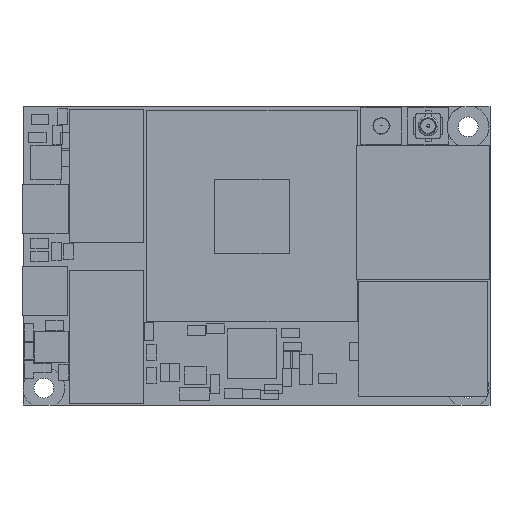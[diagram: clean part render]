
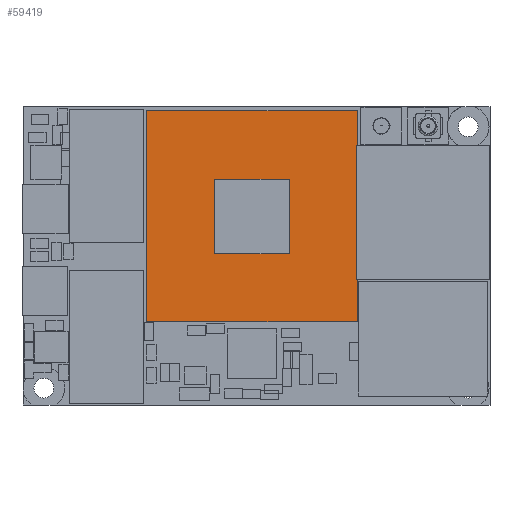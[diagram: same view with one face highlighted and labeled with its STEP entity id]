
A CAD part, top view. The second image highlights one B-rep face of the part: STEP entity #59419.
In plain terms, the highlighted planar face has unit normal (0, 0, 1).
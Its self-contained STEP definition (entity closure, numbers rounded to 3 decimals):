
#1522 = VERTEX_POINT ( 'NONE', #7613 ) ;
#3487 = ORIENTED_EDGE ( 'NONE', *, *, #93466, .T. ) ;
#4303 = LINE ( 'NONE', #97626, #5634 ) ;
#4800 = EDGE_CURVE ( 'NONE', #34479, #9100, #40131, .T. ) ;
#5369 = AXIS2_PLACEMENT_3D ( 'NONE', #66085, #8243, #57940 ) ;
#5634 = VECTOR ( 'NONE', #105072, 1000. ) ;
#5991 = VERTEX_POINT ( 'NONE', #70185 ) ;
#7613 = CARTESIAN_POINT ( 'NONE',  ( 12.431, 29.591, 2.775 ) ) ;
#8243 = DIRECTION ( 'NONE',  ( 0., 0., 1. ) ) ;
#9100 = VERTEX_POINT ( 'NONE', #61335 ) ;
#9381 = EDGE_CURVE ( 'NONE', #5991, #34479, #33345, .T. ) ;
#13185 = VERTEX_POINT ( 'NONE', #40643 ) ;
#13711 = ORIENTED_EDGE ( 'NONE', *, *, #9381, .F. ) ;
#13863 = CARTESIAN_POINT ( 'NONE',  ( 12.431, 29.591, 2.775 ) ) ;
#16133 = DIRECTION ( 'NONE',  ( 1., 0., 0. ) ) ;
#17739 = DIRECTION ( 'NONE',  ( 0., -1., 0. ) ) ;
#18897 = LINE ( 'NONE', #51128, #102654 ) ;
#22242 = CARTESIAN_POINT ( 'NONE',  ( 26.79, 15.232, 2.775 ) ) ;
#24119 = EDGE_CURVE ( 'NONE', #53236, #13185, #38110, .T. ) ;
#25087 = DIRECTION ( 'NONE',  ( -1., 0., 0. ) ) ;
#27010 = ORIENTED_EDGE ( 'NONE', *, *, #4800, .F. ) ;
#32045 = LINE ( 'NONE', #81067, #58718 ) ;
#32687 = FACE_OUTER_BOUND ( 'NONE', #39742, .T. ) ;
#33345 = LINE ( 'NONE', #82470, #39653 ) ;
#33831 = PLANE ( 'NONE',  #5369 ) ;
#34479 = VERTEX_POINT ( 'NONE', #22242 ) ;
#38110 = LINE ( 'NONE', #92507, #43200 ) ;
#39653 = VECTOR ( 'NONE', #73953, 1000. ) ;
#39742 = EDGE_LOOP ( 'NONE', ( #89371, #3487, #73208, #70753 ) ) ;
#40131 = LINE ( 'NONE', #40686, #64232 ) ;
#40632 = VERTEX_POINT ( 'NONE', #70660 ) ;
#40643 = CARTESIAN_POINT ( 'NONE',  ( 33.649, 29.591, 2.775 ) ) ;
#40686 = CARTESIAN_POINT ( 'NONE',  ( 26.79, 22.732, 2.775 ) ) ;
#43200 = VECTOR ( 'NONE', #68769, 1000. ) ;
#51128 = CARTESIAN_POINT ( 'NONE',  ( 19.29, 22.732, 2.775 ) ) ;
#53236 = VERTEX_POINT ( 'NONE', #57368 ) ;
#54266 = EDGE_LOOP ( 'NONE', ( #97410, #27010, #13711, #80610 ) ) ;
#57368 = CARTESIAN_POINT ( 'NONE',  ( 33.649, 8.373, 2.775 ) ) ;
#57709 = EDGE_CURVE ( 'NONE', #9100, #73344, #4303, .T. ) ;
#57940 = DIRECTION ( 'NONE',  ( 1., 0., 0. ) ) ;
#58718 = VECTOR ( 'NONE', #16133, 1000. ) ;
#59419 = ADVANCED_FACE ( 'NONE', ( #32687, #78356 ), #33831, .T. ) ;
#61335 = CARTESIAN_POINT ( 'NONE',  ( 26.79, 22.732, 2.775 ) ) ;
#62423 = EDGE_CURVE ( 'NONE', #13185, #1522, #94124, .T. ) ;
#64232 = VECTOR ( 'NONE', #71864, 1000. ) ;
#65493 = VECTOR ( 'NONE', #86942, 1000. ) ;
#66085 = CARTESIAN_POINT ( 'NONE',  ( 0., 0., 2.775 ) ) ;
#68048 = LINE ( 'NONE', #13863, #65493 ) ;
#68769 = DIRECTION ( 'NONE',  ( 0., 1., 0. ) ) ;
#70185 = CARTESIAN_POINT ( 'NONE',  ( 19.29, 15.232, 2.775 ) ) ;
#70660 = CARTESIAN_POINT ( 'NONE',  ( 12.431, 8.373, 2.775 ) ) ;
#70753 = ORIENTED_EDGE ( 'NONE', *, *, #24119, .T. ) ;
#71864 = DIRECTION ( 'NONE',  ( 0., 1., 0. ) ) ;
#73208 = ORIENTED_EDGE ( 'NONE', *, *, #74245, .T. ) ;
#73322 = CARTESIAN_POINT ( 'NONE',  ( 33.649, 29.591, 2.775 ) ) ;
#73344 = VERTEX_POINT ( 'NONE', #83769 ) ;
#73953 = DIRECTION ( 'NONE',  ( 1., 0., 0. ) ) ;
#74245 = EDGE_CURVE ( 'NONE', #40632, #53236, #32045, .T. ) ;
#76222 = EDGE_CURVE ( 'NONE', #73344, #5991, #18897, .T. ) ;
#78356 = FACE_BOUND ( 'NONE', #54266, .T. ) ;
#80610 = ORIENTED_EDGE ( 'NONE', *, *, #76222, .F. ) ;
#81067 = CARTESIAN_POINT ( 'NONE',  ( 12.431, 8.373, 2.775 ) ) ;
#82470 = CARTESIAN_POINT ( 'NONE',  ( 19.29, 15.232, 2.775 ) ) ;
#83769 = CARTESIAN_POINT ( 'NONE',  ( 19.29, 22.732, 2.775 ) ) ;
#86474 = VECTOR ( 'NONE', #25087, 1000. ) ;
#86942 = DIRECTION ( 'NONE',  ( 0., -1., 0. ) ) ;
#89371 = ORIENTED_EDGE ( 'NONE', *, *, #62423, .T. ) ;
#92507 = CARTESIAN_POINT ( 'NONE',  ( 33.649, 8.373, 2.775 ) ) ;
#93466 = EDGE_CURVE ( 'NONE', #1522, #40632, #68048, .T. ) ;
#94124 = LINE ( 'NONE', #73322, #86474 ) ;
#97410 = ORIENTED_EDGE ( 'NONE', *, *, #57709, .F. ) ;
#97626 = CARTESIAN_POINT ( 'NONE',  ( 19.29, 22.732, 2.775 ) ) ;
#102654 = VECTOR ( 'NONE', #17739, 1000. ) ;
#105072 = DIRECTION ( 'NONE',  ( -1., 0., 0. ) ) ;
